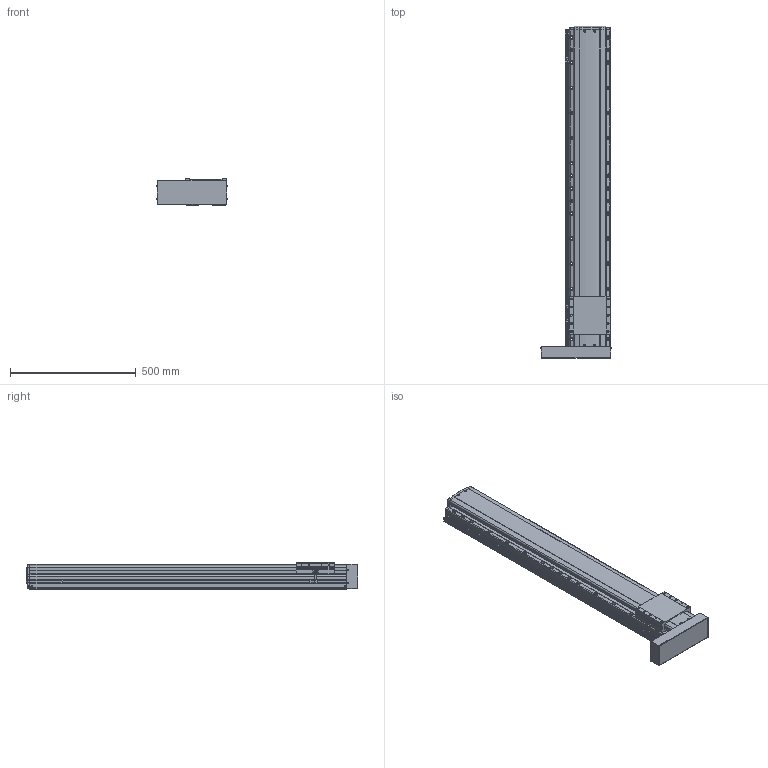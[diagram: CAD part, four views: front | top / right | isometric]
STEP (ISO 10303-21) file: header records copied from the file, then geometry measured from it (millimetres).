
FILE_DESCRIPTION(('STEP AP214'),'1');
FILE_NAME('Z:/Web/3D/PSA165/STP/PSA165-1000 (3D)/PSA165ㅁㅁ-1000PL+3SL.stp','2014-06-24T10:25:43',(' '),(' '),'Spatial InterOp 3D',' ',' ');
FILE_SCHEMA(('automotive_design'));
Length unit declared in the file: millimetre
Products named in the file (41): 스크루 : Round - M4.0 x 12.0; RRCV-PA160; BASE; 스크루 : Round - M4.0 x 10.0; RN15; Screw 20; SLIDE; FRCV; MTPL; 스크루 : Round - M3.0 x 6.0; M3.0 x 6.0; SRL-16x17-360L; SGD-SAN150; EE-SX674; SBK-SX674-352; BHCS M4.0 x 10.0
Bounding box: 281.93 x 1320.8 x 104 mm (x, y, z)
Volume: 18834041.9 mm3; surface area: 1307064.4 mm2
Topology: 41 solids, 41 shells, 2624 faces, 7041 edges, 4513 vertices
Faces by surface type: plane 1467, cylinder 819, cone 233, sphere 64, bspline 25, torus 16
Entity records: 106573 total; most frequent: CARTESIAN_POINT 18533, DIRECTION 14019, ORIENTED_EDGE 13758, EDGE_CURVE 6879, AXIS2_PLACEMENT_3D 4733, LINE 4553, VECTOR 4553, VERTEX_POINT 4513
